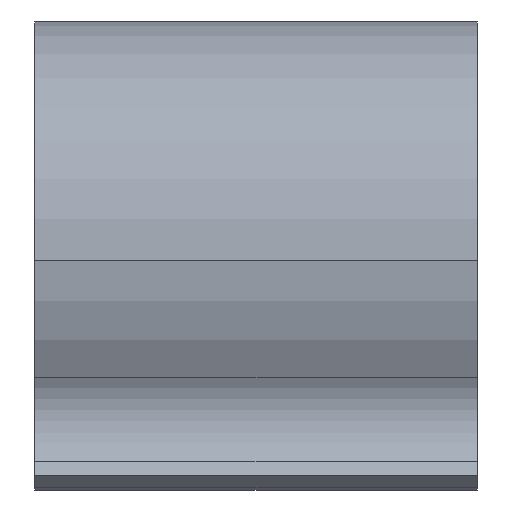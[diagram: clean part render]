
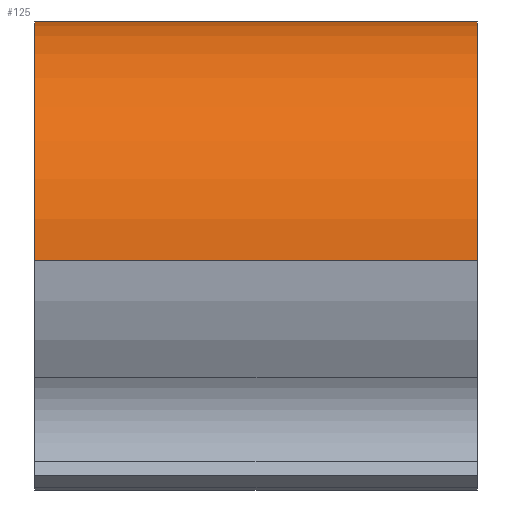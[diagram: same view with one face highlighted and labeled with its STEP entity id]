
A CAD part, top view. The second image highlights one B-rep face of the part: STEP entity #125.
In plain terms, the highlighted cylindrical face has radius 13.5 mm (diameter 27 mm), a partial arc.
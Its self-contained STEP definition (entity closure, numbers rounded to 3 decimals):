
#11 = EDGE_LOOP ( 'NONE', ( #161, #338, #613, #251 ) ) ;
#15 = CARTESIAN_POINT ( 'NONE',  ( 12.5, 0., 0. ) ) ;
#57 = CARTESIAN_POINT ( 'NONE',  ( -12.5, 0., 13.5 ) ) ;
#101 = EDGE_CURVE ( 'NONE', #584, #418, #452, .T. ) ;
#125 = ADVANCED_FACE ( 'NONE', ( #712 ), #515, .T. ) ;
#135 = DIRECTION ( 'NONE',  ( 0., 0., -1. ) ) ;
#141 = DIRECTION ( 'NONE',  ( -1., 0., 0. ) ) ;
#153 = CARTESIAN_POINT ( 'NONE',  ( 12.5, 0., 13.5 ) ) ;
#161 = ORIENTED_EDGE ( 'NONE', *, *, #431, .F. ) ;
#168 = EDGE_CURVE ( 'NONE', #386, #646, #538, .T. ) ;
#184 = DIRECTION ( 'NONE',  ( -1., 0., 0. ) ) ;
#199 = LINE ( 'NONE', #202, #436 ) ;
#202 = CARTESIAN_POINT ( 'NONE',  ( 12.5, 13.5, 0. ) ) ;
#251 = ORIENTED_EDGE ( 'NONE', *, *, #168, .F. ) ;
#307 = CARTESIAN_POINT ( 'NONE',  ( -12.5, 0., 0. ) ) ;
#338 = ORIENTED_EDGE ( 'NONE', *, *, #101, .T. ) ;
#355 = DIRECTION ( 'NONE',  ( -1., 0., 0. ) ) ;
#386 = VERTEX_POINT ( 'NONE', #57 ) ;
#407 = CARTESIAN_POINT ( 'NONE',  ( 12.5, 0., 0. ) ) ;
#418 = VERTEX_POINT ( 'NONE', #637 ) ;
#429 = DIRECTION ( 'NONE',  ( -1., 0., 0. ) ) ;
#431 = EDGE_CURVE ( 'NONE', #584, #386, #626, .T. ) ;
#435 = AXIS2_PLACEMENT_3D ( 'NONE', #407, #184, #579 ) ;
#436 = VECTOR ( 'NONE', #141, 1000. ) ;
#440 = CARTESIAN_POINT ( 'NONE',  ( -12.5, 13.5, 0. ) ) ;
#452 = CIRCLE ( 'NONE', #705, 13.5 ) ;
#515 = CYLINDRICAL_SURFACE ( 'NONE', #435, 13.5 ) ;
#538 = CIRCLE ( 'NONE', #585, 13.5 ) ;
#547 = VECTOR ( 'NONE', #699, 1000. ) ;
#579 = DIRECTION ( 'NONE',  ( 0., 0., 1. ) ) ;
#584 = VERTEX_POINT ( 'NONE', #702 ) ;
#585 = AXIS2_PLACEMENT_3D ( 'NONE', #307, #429, #135 ) ;
#613 = ORIENTED_EDGE ( 'NONE', *, *, #638, .T. ) ;
#626 = LINE ( 'NONE', #153, #547 ) ;
#637 = CARTESIAN_POINT ( 'NONE',  ( 12.5, 13.5, 0. ) ) ;
#638 = EDGE_CURVE ( 'NONE', #418, #646, #199, .T. ) ;
#646 = VERTEX_POINT ( 'NONE', #440 ) ;
#656 = DIRECTION ( 'NONE',  ( 0., 0., -1. ) ) ;
#699 = DIRECTION ( 'NONE',  ( -1., 0., 0. ) ) ;
#702 = CARTESIAN_POINT ( 'NONE',  ( 12.5, 0., 13.5 ) ) ;
#705 = AXIS2_PLACEMENT_3D ( 'NONE', #15, #355, #656 ) ;
#712 = FACE_OUTER_BOUND ( 'NONE', #11, .T. ) ;
